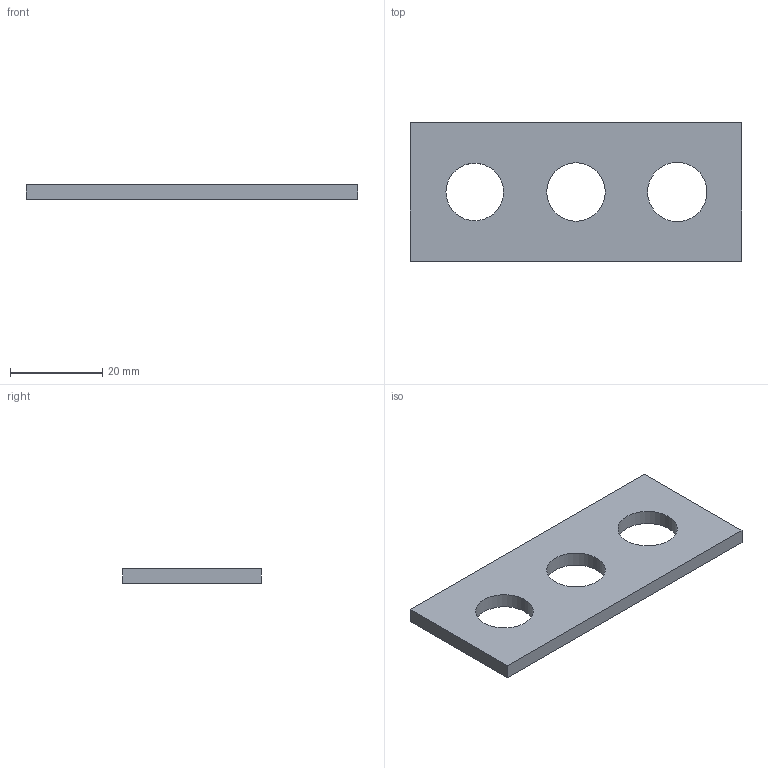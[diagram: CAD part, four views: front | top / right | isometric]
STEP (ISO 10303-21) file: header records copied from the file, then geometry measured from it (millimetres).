
FILE_DESCRIPTION(('FreeCAD Model'),'2;1');
FILE_NAME('Open CASCADE Shape Model','2026-09-11T23:31:28',('FreeCAD'),( 'FreeCAD'),'Open CASCADE STEP processor 7.8','FreeCAD','Unknown');
FILE_SCHEMA(('AUTOMOTIVE_DESIGN { 1 0 10303 214 1 1 1 1 }'));
Length unit declared in the file: millimetre
Products named in the file (1): Open CASCADE STEP translator 7.8 12
Bounding box: 72 x 30 x 3.2 mm (x, y, z)
Volume: 5695.7 mm3; surface area: 4595.6 mm2
Topology: 1 solids, 1 shells, 9 faces, 21 edges, 14 vertices
Faces by surface type: plane 6, cylinder 3
Full cylindrical faces by diameter (mm): 12.5 x1, 12.7 x1, 12.9 x1
Entity records: 283 total; most frequent: DIRECTION 47, CARTESIAN_POINT 45, ORIENTED_EDGE 42, EDGE_CURVE 21, AXIS2_PLACEMENT_3D 16, FACE_BOUND 15, EDGE_LOOP 15, LINE 15
